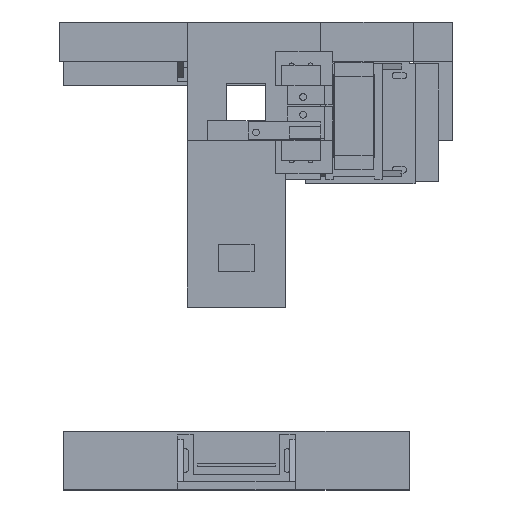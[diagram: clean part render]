
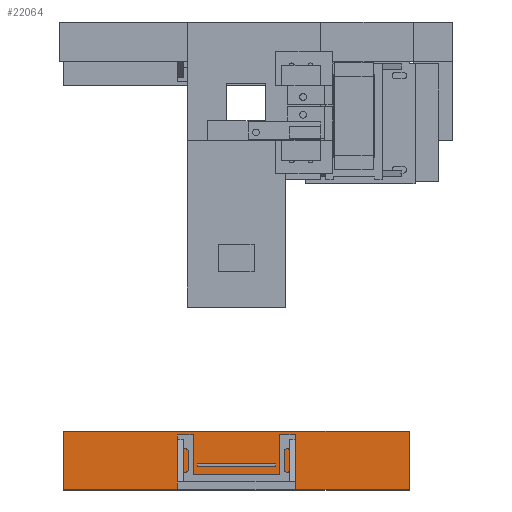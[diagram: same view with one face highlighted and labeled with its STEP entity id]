
A CAD part, top view. The second image highlights one B-rep face of the part: STEP entity #22064.
In plain terms, the highlighted planar face has unit normal (0, 0, 1).
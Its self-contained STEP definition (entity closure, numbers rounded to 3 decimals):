
#21750 = VERTEX_POINT('',#21751);
#21751 = CARTESIAN_POINT('',(22.,2.,240.));
#21758 = PLANE('',#21759);
#21759 = AXIS2_PLACEMENT_3D('',#21760,#21761,#21762);
#21760 = CARTESIAN_POINT('',(22.,2.,234.));
#21761 = DIRECTION('',(1.,0.,0.));
#21762 = DIRECTION('',(0.,0.,1.));
#21770 = PLANE('',#21771);
#21771 = AXIS2_PLACEMENT_3D('',#21772,#21773,#21774);
#21772 = CARTESIAN_POINT('',(22.,2.,234.));
#21773 = DIRECTION('',(0.,1.,0.));
#21774 = DIRECTION('',(0.,0.,1.));
#21811 = VERTEX_POINT('',#21812);
#21812 = CARTESIAN_POINT('',(22.,32.,240.));
#21826 = PLANE('',#21827);
#21827 = AXIS2_PLACEMENT_3D('',#21828,#21829,#21830);
#21828 = CARTESIAN_POINT('',(22.,32.,234.));
#21829 = DIRECTION('',(0.,1.,0.));
#21830 = DIRECTION('',(0.,0.,1.));
#21838 = EDGE_CURVE('',#21750,#21811,#21839,.T.);
#21839 = SURFACE_CURVE('',#21840,(#21844,#21851),.PCURVE_S1.);
#21840 = LINE('',#21841,#21842);
#21841 = CARTESIAN_POINT('',(22.,2.,240.));
#21842 = VECTOR('',#21843,1.);
#21843 = DIRECTION('',(0.,1.,0.));
#21844 = PCURVE('',#21758,#21845);
#21845 = DEFINITIONAL_REPRESENTATION('',(#21846),#21850);
#21846 = LINE('',#21847,#21848);
#21847 = CARTESIAN_POINT('',(6.,0.));
#21848 = VECTOR('',#21849,1.);
#21849 = DIRECTION('',(0.,-1.));
#21850 = ( GEOMETRIC_REPRESENTATION_CONTEXT(2) 
PARAMETRIC_REPRESENTATION_CONTEXT() REPRESENTATION_CONTEXT('2D SPACE',''
  ) );
#21851 = PCURVE('',#21852,#21857);
#21852 = PLANE('',#21853);
#21853 = AXIS2_PLACEMENT_3D('',#21854,#21855,#21856);
#21854 = CARTESIAN_POINT('',(22.,2.,240.));
#21855 = DIRECTION('',(0.,0.,1.));
#21856 = DIRECTION('',(1.,0.,0.));
#21857 = DEFINITIONAL_REPRESENTATION('',(#21858),#21862);
#21858 = LINE('',#21859,#21860);
#21859 = CARTESIAN_POINT('',(0.,0.));
#21860 = VECTOR('',#21861,1.);
#21861 = DIRECTION('',(0.,1.));
#21862 = ( GEOMETRIC_REPRESENTATION_CONTEXT(2) 
PARAMETRIC_REPRESENTATION_CONTEXT() REPRESENTATION_CONTEXT('2D SPACE',''
  ) );
#21870 = VERTEX_POINT('',#21871);
#21871 = CARTESIAN_POINT('',(198.,2.,240.));
#21878 = PLANE('',#21879);
#21879 = AXIS2_PLACEMENT_3D('',#21880,#21881,#21882);
#21880 = CARTESIAN_POINT('',(198.,2.,234.));
#21881 = DIRECTION('',(1.,0.,0.));
#21882 = DIRECTION('',(0.,0.,1.));
#21921 = VERTEX_POINT('',#21922);
#21922 = CARTESIAN_POINT('',(198.,32.,240.));
#21943 = EDGE_CURVE('',#21870,#21921,#21944,.T.);
#21944 = SURFACE_CURVE('',#21945,(#21949,#21956),.PCURVE_S1.);
#21945 = LINE('',#21946,#21947);
#21946 = CARTESIAN_POINT('',(198.,2.,240.));
#21947 = VECTOR('',#21948,1.);
#21948 = DIRECTION('',(0.,1.,0.));
#21949 = PCURVE('',#21878,#21950);
#21950 = DEFINITIONAL_REPRESENTATION('',(#21951),#21955);
#21951 = LINE('',#21952,#21953);
#21952 = CARTESIAN_POINT('',(6.,0.));
#21953 = VECTOR('',#21954,1.);
#21954 = DIRECTION('',(0.,-1.));
#21955 = ( GEOMETRIC_REPRESENTATION_CONTEXT(2) 
PARAMETRIC_REPRESENTATION_CONTEXT() REPRESENTATION_CONTEXT('2D SPACE',''
  ) );
#21956 = PCURVE('',#21852,#21957);
#21957 = DEFINITIONAL_REPRESENTATION('',(#21958),#21962);
#21958 = LINE('',#21959,#21960);
#21959 = CARTESIAN_POINT('',(176.,0.));
#21960 = VECTOR('',#21961,1.);
#21961 = DIRECTION('',(0.,1.));
#21962 = ( GEOMETRIC_REPRESENTATION_CONTEXT(2) 
PARAMETRIC_REPRESENTATION_CONTEXT() REPRESENTATION_CONTEXT('2D SPACE',''
  ) );
#21989 = EDGE_CURVE('',#21750,#21870,#21990,.T.);
#21990 = SURFACE_CURVE('',#21991,(#21995,#22002),.PCURVE_S1.);
#21991 = LINE('',#21992,#21993);
#21992 = CARTESIAN_POINT('',(22.,2.,240.));
#21993 = VECTOR('',#21994,1.);
#21994 = DIRECTION('',(1.,0.,0.));
#21995 = PCURVE('',#21770,#21996);
#21996 = DEFINITIONAL_REPRESENTATION('',(#21997),#22001);
#21997 = LINE('',#21998,#21999);
#21998 = CARTESIAN_POINT('',(6.,0.));
#21999 = VECTOR('',#22000,1.);
#22000 = DIRECTION('',(0.,1.));
#22001 = ( GEOMETRIC_REPRESENTATION_CONTEXT(2) 
PARAMETRIC_REPRESENTATION_CONTEXT() REPRESENTATION_CONTEXT('2D SPACE',''
  ) );
#22002 = PCURVE('',#21852,#22003);
#22003 = DEFINITIONAL_REPRESENTATION('',(#22004),#22008);
#22004 = LINE('',#22005,#22006);
#22005 = CARTESIAN_POINT('',(0.,0.));
#22006 = VECTOR('',#22007,1.);
#22007 = DIRECTION('',(1.,0.));
#22008 = ( GEOMETRIC_REPRESENTATION_CONTEXT(2) 
PARAMETRIC_REPRESENTATION_CONTEXT() REPRESENTATION_CONTEXT('2D SPACE',''
  ) );
#22036 = EDGE_CURVE('',#21811,#21921,#22037,.T.);
#22037 = SURFACE_CURVE('',#22038,(#22042,#22049),.PCURVE_S1.);
#22038 = LINE('',#22039,#22040);
#22039 = CARTESIAN_POINT('',(22.,32.,240.));
#22040 = VECTOR('',#22041,1.);
#22041 = DIRECTION('',(1.,0.,0.));
#22042 = PCURVE('',#21826,#22043);
#22043 = DEFINITIONAL_REPRESENTATION('',(#22044),#22048);
#22044 = LINE('',#22045,#22046);
#22045 = CARTESIAN_POINT('',(6.,0.));
#22046 = VECTOR('',#22047,1.);
#22047 = DIRECTION('',(0.,1.));
#22048 = ( GEOMETRIC_REPRESENTATION_CONTEXT(2) 
PARAMETRIC_REPRESENTATION_CONTEXT() REPRESENTATION_CONTEXT('2D SPACE',''
  ) );
#22049 = PCURVE('',#21852,#22050);
#22050 = DEFINITIONAL_REPRESENTATION('',(#22051),#22055);
#22051 = LINE('',#22052,#22053);
#22052 = CARTESIAN_POINT('',(0.,30.));
#22053 = VECTOR('',#22054,1.);
#22054 = DIRECTION('',(1.,0.));
#22055 = ( GEOMETRIC_REPRESENTATION_CONTEXT(2) 
PARAMETRIC_REPRESENTATION_CONTEXT() REPRESENTATION_CONTEXT('2D SPACE',''
  ) );
#22064 = ADVANCED_FACE('',(#22065),#21852,.T.);
#22065 = FACE_BOUND('',#22066,.T.);
#22066 = EDGE_LOOP('',(#22067,#22068,#22069,#22070));
#22067 = ORIENTED_EDGE('',*,*,#21838,.F.);
#22068 = ORIENTED_EDGE('',*,*,#21989,.T.);
#22069 = ORIENTED_EDGE('',*,*,#21943,.T.);
#22070 = ORIENTED_EDGE('',*,*,#22036,.F.);
